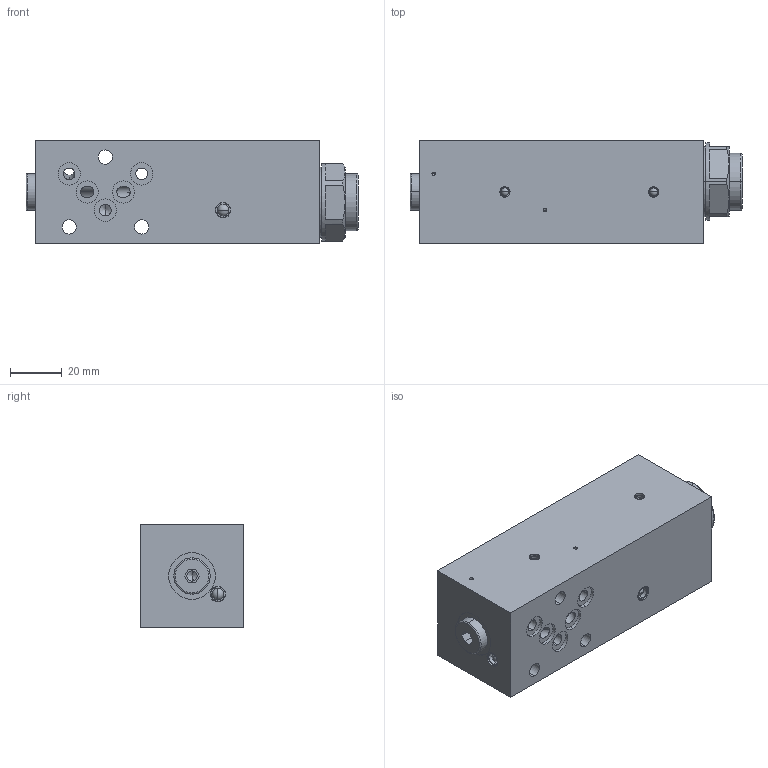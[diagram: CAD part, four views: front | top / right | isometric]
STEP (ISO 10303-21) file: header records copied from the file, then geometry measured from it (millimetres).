
FILE_DESCRIPTION (( 'STEP AP214' ), '1' );
FILE_NAME ('UZFSA04.STEP', '2017-04-13T12:26:55', ( '' ), ( '' ), 'SwSTEP 2.0', 'SolidWorks 2016', '' );
FILE_SCHEMA (( 'AUTOMOTIVE_DESIGN' ));
Length unit declared in the file: millimetre
Products named in the file (1): UZFSA04
Bounding box: 128.4 x 40 x 40 mm (x, y, z)
Volume: 178082.3 mm3; surface area: 28457.3 mm2
Topology: 6 solids, 11 shells, 260 faces, 599 edges, 352 vertices
Faces by surface type: cylinder 101, cone 81, plane 54, sphere 20, torus 4
Entity records: 10133 total; most frequent: CARTESIAN_POINT 1346, DIRECTION 1330, ORIENTED_EDGE 1118, EDGE_CURVE 559, AXIS2_PLACEMENT_3D 542, VERTEX_POINT 352, EDGE_LOOP 301, CIRCLE 281
